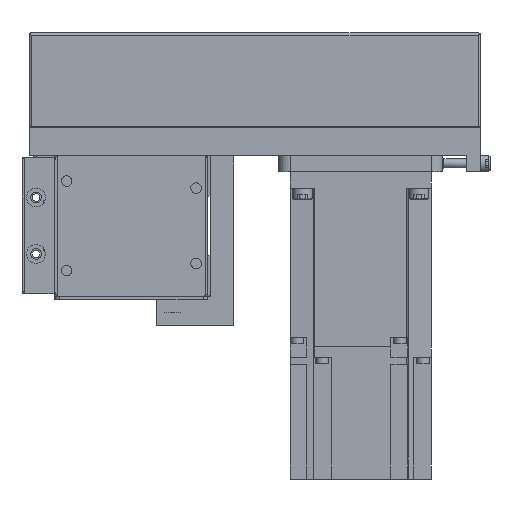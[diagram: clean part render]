
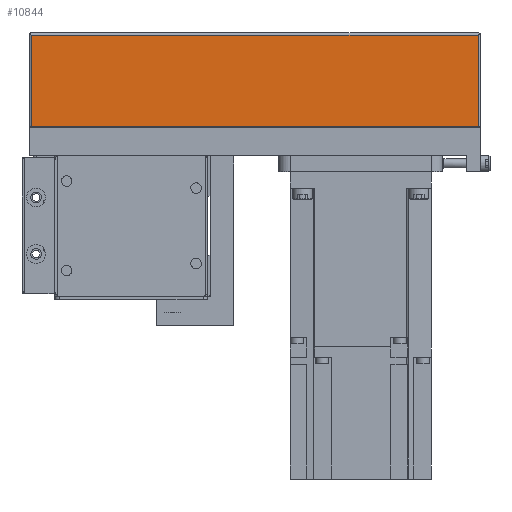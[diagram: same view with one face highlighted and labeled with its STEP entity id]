
A CAD part, left-side view. The second image highlights one B-rep face of the part: STEP entity #10844.
In plain terms, the highlighted planar face has unit normal (-1, 0, 0).
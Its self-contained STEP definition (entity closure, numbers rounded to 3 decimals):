
#2526=ORIENTED_EDGE('',*,*,#4595,.T.);
#2527=ORIENTED_EDGE('',*,*,#4596,.T.);
#2528=ORIENTED_EDGE('',*,*,#4597,.F.);
#2529=ORIENTED_EDGE('',*,*,#4598,.T.);
#4595=EDGE_CURVE('',#5818,#5819,#6858,.T.);
#4596=EDGE_CURVE('',#5819,#5820,#6859,.T.);
#4597=EDGE_CURVE('',#5821,#5820,#6860,.T.);
#4598=EDGE_CURVE('',#5821,#5818,#6861,.T.);
#5818=VERTEX_POINT('',#17418);
#5819=VERTEX_POINT('',#17419);
#5820=VERTEX_POINT('',#17421);
#5821=VERTEX_POINT('',#17423);
#6858=LINE('',#17417,#7906);
#6859=LINE('',#17420,#7907);
#6860=LINE('',#17422,#7908);
#6861=LINE('',#17424,#7909);
#7906=VECTOR('',#14227,1000.);
#7907=VECTOR('',#14228,1000.);
#7908=VECTOR('',#14229,1000.);
#7909=VECTOR('',#14230,1000.);
#8892=EDGE_LOOP('',(#2526,#2527,#2528,#2529));
#9766=FACE_BOUND('',#8892,.T.);
#10314=PLANE('',#11828);
#10844=ADVANCED_FACE('',(#9766),#10314,.T.);
#11828=AXIS2_PLACEMENT_3D('',#17416,#14225,#14226);
#14225=DIRECTION('',(-1.,0.,0.));
#14226=DIRECTION('',(0.,0.,1.));
#14227=DIRECTION('',(0.,0.,1.));
#14228=DIRECTION('',(0.,1.,0.));
#14229=DIRECTION('',(0.,0.,1.));
#14230=DIRECTION('',(0.,-1.,0.));
#17416=CARTESIAN_POINT('',(-40.,151.,-52.));
#17417=CARTESIAN_POINT('',(-40.,-40.,-64.));
#17418=CARTESIAN_POINT('',(-40.,-40.,-51.));
#17419=CARTESIAN_POINT('',(-40.,-40.,-12.01));
#17420=CARTESIAN_POINT('',(-40.,151.,-12.01));
#17421=CARTESIAN_POINT('',(-40.,150.,-12.01));
#17422=CARTESIAN_POINT('',(-40.,150.,-64.));
#17423=CARTESIAN_POINT('',(-40.,150.,-51.));
#17424=CARTESIAN_POINT('',(-40.,200.,-51.));
